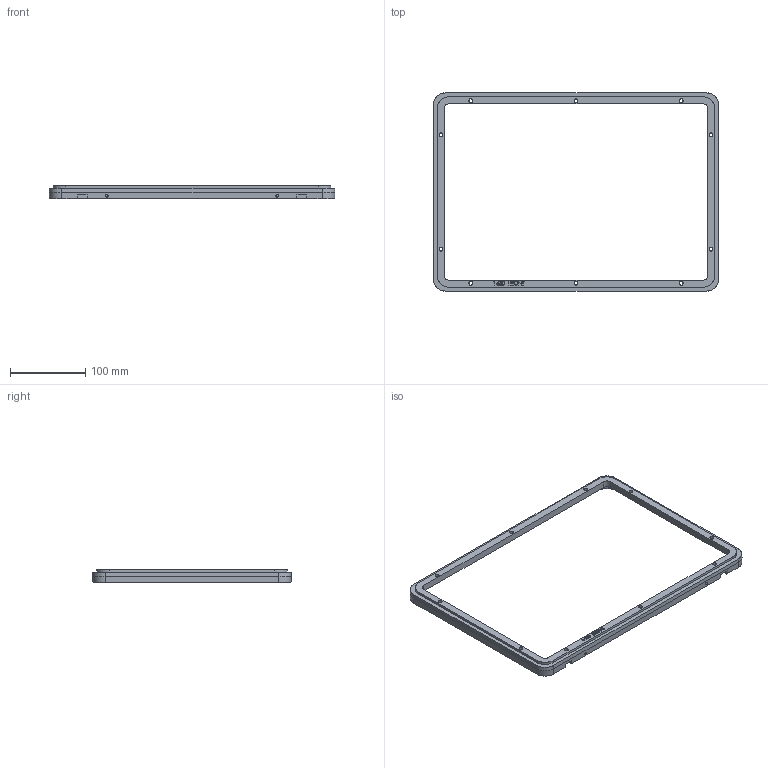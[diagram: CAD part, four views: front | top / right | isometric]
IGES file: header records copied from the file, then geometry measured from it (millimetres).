
Start section: SolidWorks IGES file using analytic representation for surfaces
Global section: file name: C:\Working\1450 panel frame.IGS; native system: SolidWorks 2014; preprocessor: SolidWorks 2014; author: mhakami; date: 150806.103400; units: inch
Bounding box: 378.97 x 263.14 x 18.03 mm (x, y, z)
Surface area: 78670.2 mm2 (no closed solid volume)
Topology: 0 solids, 0 shells, 186 faces, 2522 edges, 2522 vertices
Faces by surface type: bspline 138, revolution 48
